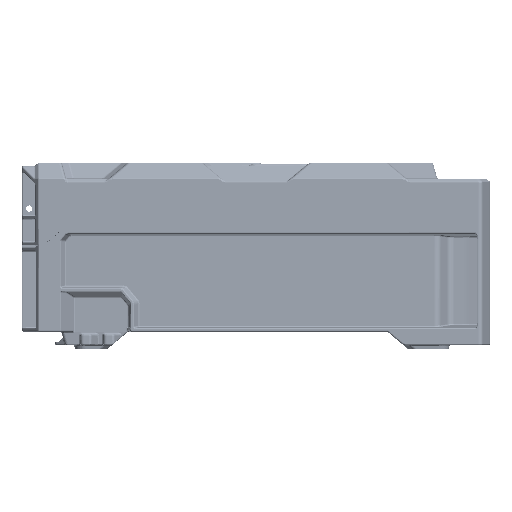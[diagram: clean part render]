
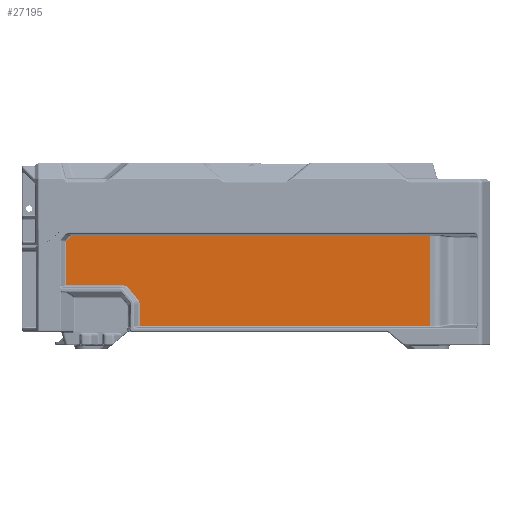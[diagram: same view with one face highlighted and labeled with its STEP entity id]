
A CAD part, left-side view. The second image highlights one B-rep face of the part: STEP entity #27195.
In plain terms, the highlighted planar face has unit normal (-1, 0, 0).
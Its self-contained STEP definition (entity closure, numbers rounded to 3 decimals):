
#15983=PLANE('',#221670);
#19917=ELLIPSE('',#221652,1.159,1.);
#19919=ELLIPSE('',#221655,1.159,1.);
#19921=ELLIPSE('',#221659,5.098,4.5);
#19923=ELLIPSE('',#221662,6.931,6.);
#27195=ADVANCED_FACE('',(#45025),#15983,.T.);
#45025=FACE_OUTER_BOUND('',#58456,.T.);
#58456=EDGE_LOOP('',(#94872,#94873,#94874,#94875,#94876,#94877,#94878,#94879,
#94880,#94881,#94882,#94883,#94884,#94885));
#70659=CIRCLE('',#221668,0.5);
#70660=CIRCLE('',#221669,0.5);
#94872=ORIENTED_EDGE('',*,*,#169360,.T.);
#94873=ORIENTED_EDGE('',*,*,#169364,.T.);
#94874=ORIENTED_EDGE('',*,*,#169362,.F.);
#94875=ORIENTED_EDGE('',*,*,#169340,.F.);
#94876=ORIENTED_EDGE('',*,*,#169342,.F.);
#94877=ORIENTED_EDGE('',*,*,#169344,.F.);
#94878=ORIENTED_EDGE('',*,*,#169346,.F.);
#94879=ORIENTED_EDGE('',*,*,#169348,.F.);
#94880=ORIENTED_EDGE('',*,*,#169350,.F.);
#94881=ORIENTED_EDGE('',*,*,#169352,.F.);
#94882=ORIENTED_EDGE('',*,*,#169354,.F.);
#94883=ORIENTED_EDGE('',*,*,#169356,.F.);
#94884=ORIENTED_EDGE('',*,*,#169357,.F.);
#94885=ORIENTED_EDGE('',*,*,#169365,.T.);
#146207=VERTEX_POINT('',#349082);
#146208=VERTEX_POINT('',#349084);
#146209=VERTEX_POINT('',#349088);
#146210=VERTEX_POINT('',#349092);
#146211=VERTEX_POINT('',#349096);
#146212=VERTEX_POINT('',#349100);
#146213=VERTEX_POINT('',#349104);
#146214=VERTEX_POINT('',#349108);
#146215=VERTEX_POINT('',#349112);
#146216=VERTEX_POINT('',#349116);
#146217=VERTEX_POINT('',#349120);
#146218=VERTEX_POINT('',#349124);
#146219=VERTEX_POINT('',#349126);
#146220=VERTEX_POINT('',#349130);
#169340=EDGE_CURVE('',#146208,#146207,#19917,.T.);
#169342=EDGE_CURVE('',#146209,#146208,#195556,.T.);
#169344=EDGE_CURVE('',#146210,#146209,#19919,.T.);
#169346=EDGE_CURVE('',#146211,#146210,#195559,.T.);
#169348=EDGE_CURVE('',#146212,#146211,#195561,.T.);
#169350=EDGE_CURVE('',#146213,#146212,#19921,.T.);
#169352=EDGE_CURVE('',#146214,#146213,#195564,.T.);
#169354=EDGE_CURVE('',#146215,#146214,#19923,.T.);
#169356=EDGE_CURVE('',#146216,#146215,#195567,.T.);
#169357=EDGE_CURVE('',#146217,#146216,#195568,.T.);
#169360=EDGE_CURVE('',#146219,#146218,#195571,.T.);
#169362=EDGE_CURVE('',#146207,#146220,#195573,.T.);
#169364=EDGE_CURVE('',#146218,#146220,#70659,.T.);
#169365=EDGE_CURVE('',#146217,#146219,#70660,.T.);
#195556=LINE('',#349089,#207002);
#195559=LINE('',#349097,#207006);
#195561=LINE('',#349101,#207008);
#195564=LINE('',#349109,#207012);
#195567=LINE('',#349117,#207016);
#195568=LINE('',#349119,#207017);
#195571=LINE('',#349125,#207020);
#195573=LINE('',#349129,#207022);
#207002=VECTOR('',#253456,1.);
#207006=VECTOR('',#253466,1.);
#207008=VECTOR('',#253470,1.);
#207012=VECTOR('',#253480,1.);
#207016=VECTOR('',#253490,1.);
#207017=VECTOR('',#253493,1.);
#207020=VECTOR('',#253498,1.);
#207022=VECTOR('',#253502,1.);
#221652=AXIS2_PLACEMENT_3D('',#349085,#253450,#253451);
#221655=AXIS2_PLACEMENT_3D('',#349093,#253460,#253461);
#221659=AXIS2_PLACEMENT_3D('',#349105,#253474,#253475);
#221662=AXIS2_PLACEMENT_3D('',#349113,#253484,#253485);
#221668=AXIS2_PLACEMENT_3D('',#349133,#253506,#253507);
#221669=AXIS2_PLACEMENT_3D('',#349134,#253508,#253509);
#221670=AXIS2_PLACEMENT_3D('',#349135,#253510,#253511);
#253450=DIRECTION('',(1.,0.,0.));
#253451=DIRECTION('',(0.,-0.986,-0.165));
#253456=DIRECTION('',(0.,-0.64,0.768));
#253460=DIRECTION('',(1.,0.,0.));
#253461=DIRECTION('',(0.,0.986,0.165));
#253466=DIRECTION('',(0.,0.,1.));
#253470=DIRECTION('',(0.,1.,0.));
#253474=DIRECTION('',(-1.,0.,0.));
#253475=DIRECTION('',(0.,-0.983,0.181));
#253480=DIRECTION('',(0.,0.643,0.766));
#253484=DIRECTION('',(-1.,0.,0.));
#253485=DIRECTION('',(0.,-0.998,0.056));
#253490=DIRECTION('',(0.,0.,1.));
#253493=DIRECTION('',(0.,1.,0.));
#253498=DIRECTION('',(0.,0.,1.));
#253502=DIRECTION('',(0.,-1.,0.));
#253506=DIRECTION('',(-1.,0.,0.));
#253507=DIRECTION('',(0.,0.,-1.));
#253508=DIRECTION('',(-1.,0.,0.));
#253509=DIRECTION('',(0.,0.,-1.));
#253510=DIRECTION('',(-1.,0.,0.));
#253511=DIRECTION('',(0.,0.,-1.));
#349082=CARTESIAN_POINT('',(-192.4,-31.471,-11.439));
#349084=CARTESIAN_POINT('',(-192.4,-30.581,-11.829));
#349085=CARTESIAN_POINT('',(-192.4,-31.527,-12.444));
#349088=CARTESIAN_POINT('',(-192.4,-28.301,-14.563));
#349089=CARTESIAN_POINT('',(-192.4,-23.857,-19.893));
#349092=CARTESIAN_POINT('',(-192.4,-28.093,-15.13));
#349093=CARTESIAN_POINT('',(-192.4,-29.247,-15.178));
#349096=CARTESIAN_POINT('',(-192.4,-28.093,-42.561));
#349097=CARTESIAN_POINT('',(-192.4,-28.093,0.));
#349100=CARTESIAN_POINT('',(-192.4,-63.491,-42.561));
#349101=CARTESIAN_POINT('',(-192.4,0.,-42.561));
#349104=CARTESIAN_POINT('',(-192.4,-67.383,-44.274));
#349105=CARTESIAN_POINT('',(-192.4,-63.265,-47.082));
#349108=CARTESIAN_POINT('',(-192.4,-73.128,-51.121));
#349109=CARTESIAN_POINT('',(-192.4,-67.481,-44.391));
#349112=CARTESIAN_POINT('',(-192.4,-74.43,-54.605));
#349113=CARTESIAN_POINT('',(-192.4,-67.501,-54.703));
#349116=CARTESIAN_POINT('',(-192.4,-74.43,-68.061));
#349117=CARTESIAN_POINT('',(-192.4,-74.43,0.));
#349119=CARTESIAN_POINT('',(-192.4,0.,-68.061));
#349120=CARTESIAN_POINT('',(-192.4,-257.593,-68.061));
#349124=CARTESIAN_POINT('',(-192.4,-258.093,-11.939));
#349125=CARTESIAN_POINT('',(-192.4,-258.093,0.));
#349126=CARTESIAN_POINT('',(-192.4,-258.093,-67.561));
#349129=CARTESIAN_POINT('',(-192.4,0.,-11.439));
#349130=CARTESIAN_POINT('',(-192.4,-257.593,-11.439));
#349133=CARTESIAN_POINT('',(-192.4,-257.593,-11.939));
#349134=CARTESIAN_POINT('',(-192.4,-257.593,-67.561));
#349135=CARTESIAN_POINT('',(-192.4,0.,0.));
